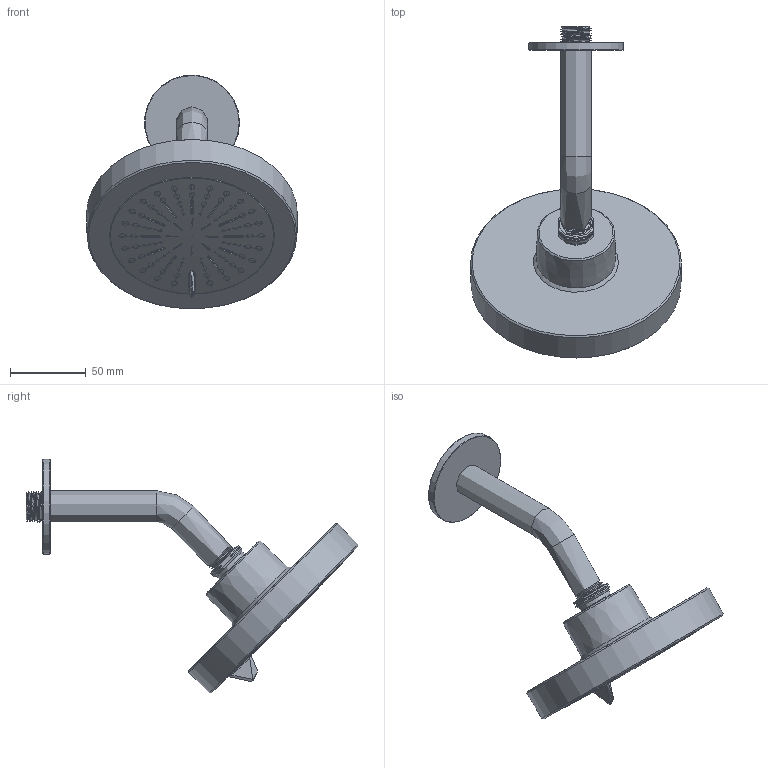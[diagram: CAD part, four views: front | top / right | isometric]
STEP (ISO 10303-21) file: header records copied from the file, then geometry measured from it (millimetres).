
FILE_DESCRIPTION(/* description */ (''),/* implementation_level */ '2;1');
FILE_NAME(/* name */ 'X:\Utilisateurs\Francois\366 3D.stp',/* time_stamp */ '2016-12-22T11:18:49-05:00',/* author */ ('francoisj'),/* organization */ (''),/* preprocessor_version */ 'ST-DEVELOPER v15.6',/* originating_system */ 'Autodesk Inventor 2015',/* authorisation */ '');
FILE_SCHEMA (('CONFIG_CONTROL_DESIGN'));
Products named in the file (1): 366_Shrinkwrap_1
Bounding box: 139.66 x 219.77 x 154.71 mm (x, y, z)
Volume: 454651.6 mm3; surface area: 61594.8 mm2
Topology: 1 solids, 2 shells, 410 faces, 859 edges, 538 vertices
Faces by surface type: bspline 225, plane 93, torus 47, sphere 24, cylinder 12, cone 9
Full cylindrical faces by diameter (mm): 21 x3, 23.495 x1, 63 x1
Entity records: 36397 total; most frequent: CARTESIAN_POINT 28817, ORIENTED_EDGE 1626, DIRECTION 1130, EDGE_CURVE 813, AXIS2_PLACEMENT_3D 548, VERTEX_POINT 524, EDGE_LOOP 521, STYLED_ITEM 408
